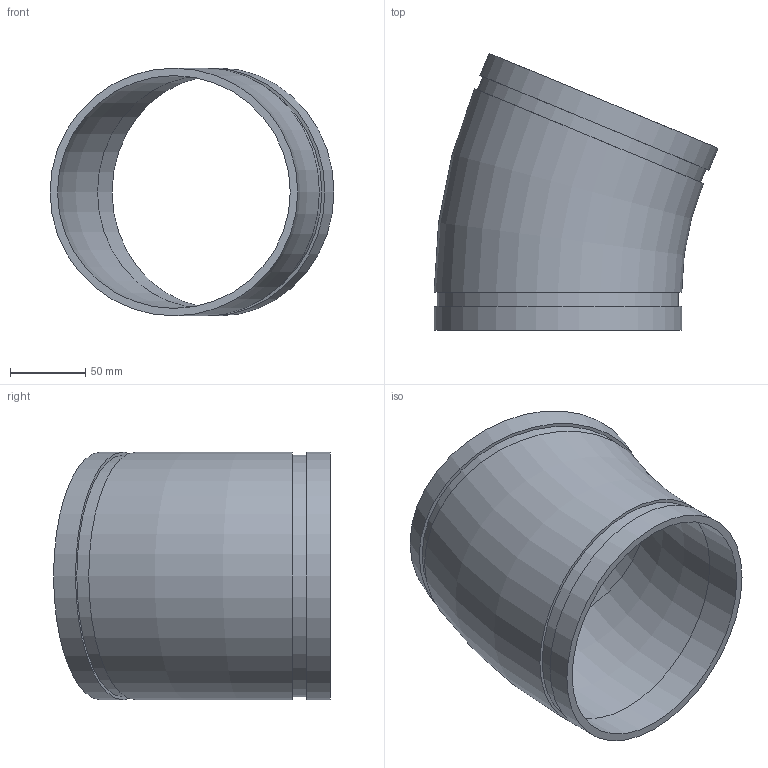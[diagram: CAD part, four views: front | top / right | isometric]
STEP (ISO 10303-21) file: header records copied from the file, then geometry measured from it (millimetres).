
FILE_DESCRIPTION(/* description */ ('VIC ELBOW 22 1/2 DEG No 12 (OGS)','CAx-IF Rec.Pracs.---Representation and Presentation of Product Manufacturing Information (PMI)---4.0---2014-10-13'),/* implementation_level */ '2;1');
FILE_NAME(/* name */ 'C:\Users\Vjadhav\Desktop\CAD for Inventor\1\12\STEP\Victaulic_IPS_Elbow 22.5 Deg_No 12 (OGS)\Victaulic_IPS_Elbow 22.5 Deg_No 12 (OGS)_06.0 (165.1) (150).stp',/* time_stamp */ '2021-12-22T09:20:19+06:00',/* author */ ('CONSTRUCTION PIPING SERVICES'),/* organization */ ('Victaulic'),/* preprocessor_version */ 'ST-DEVELOPER v17.2',/* originating_system */ 'Autodesk Inventor 2019',/* authorisation */ '');
FILE_SCHEMA (('AP242_MANAGED_MODEL_BASED_3D_ENGINEERING_MIM_LF { 1 0 10303 442 1 1 4 }'));
Length unit declared in the file: inch
Products named in the file (1): 012-06.0 (165.1)
Bounding box: 189.24 x 184.54 x 165.1 mm (x, y, z)
Volume: 375310.7 mm3; surface area: 167737.7 mm2
Topology: 1 solids, 1 shells, 14 faces, 32 edges, 24 vertices
Faces by surface type: plane 6, cylinder 6, torus 2
Full cylindrical faces by diameter (mm): 155.1 x2, 160.782 x2, 165.1 x2
Entity records: 576 total; most frequent: DIRECTION 114, CARTESIAN_POINT 88, ORIENTED_EDGE 64, AXIS2_PLACEMENT_3D 54, EDGE_CURVE 32, CIRCLE 26, VERTEX_POINT 24, EDGE_LOOP 20
